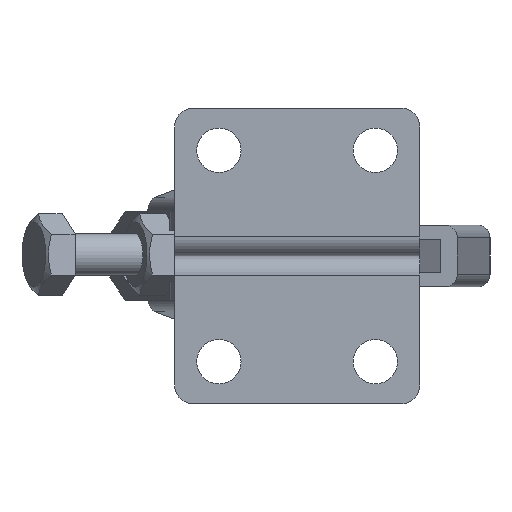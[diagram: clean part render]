
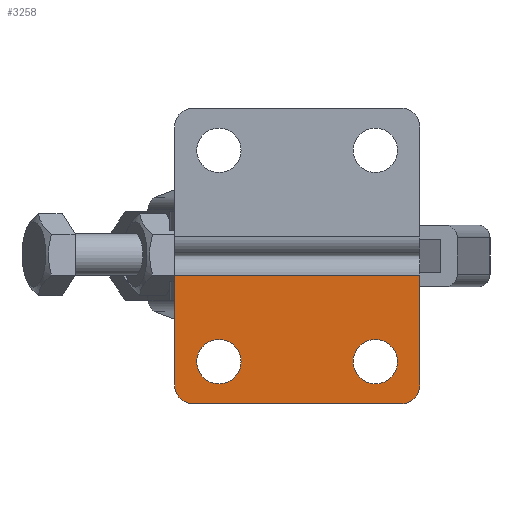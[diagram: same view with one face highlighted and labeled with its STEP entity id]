
A CAD part, front view. The second image highlights one B-rep face of the part: STEP entity #3258.
In plain terms, the highlighted planar face has unit normal (0, -1, 0).
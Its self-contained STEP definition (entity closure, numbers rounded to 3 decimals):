
#210=FACE_BOUND('',#562,.T.);
#211=FACE_BOUND('',#563,.T.);
#263=PLANE('',#3688);
#371=FACE_OUTER_BOUND('',#561,.T.);
#561=EDGE_LOOP('',(#2287,#2288,#2289,#2290,#2291,#2292));
#562=EDGE_LOOP('',(#2293));
#563=EDGE_LOOP('',(#2294));
#803=LINE('',#5179,#1071);
#811=LINE('',#5199,#1079);
#812=LINE('',#5203,#1080);
#813=LINE('',#5204,#1081);
#1071=VECTOR('',#4100,10.);
#1079=VECTOR('',#4114,10.);
#1080=VECTOR('',#4117,10.);
#1081=VECTOR('',#4118,10.);
#1337=CIRCLE('',#3683,4.5);
#1341=CIRCLE('',#3689,4.5);
#1342=CIRCLE('',#3690,5.25);
#1343=CIRCLE('',#3691,5.25);
#1512=VERTEX_POINT('',#5169);
#1513=VERTEX_POINT('',#5170);
#1516=VERTEX_POINT('',#5178);
#1525=VERTEX_POINT('',#5198);
#1526=VERTEX_POINT('',#5200);
#1527=VERTEX_POINT('',#5202);
#1528=VERTEX_POINT('',#5205);
#1529=VERTEX_POINT('',#5207);
#1817=EDGE_CURVE('',#1512,#1513,#1337,.T.);
#1821=EDGE_CURVE('',#1516,#1513,#803,.T.);
#1831=EDGE_CURVE('',#1512,#1525,#811,.T.);
#1832=EDGE_CURVE('',#1526,#1525,#1341,.T.);
#1833=EDGE_CURVE('',#1526,#1527,#812,.T.);
#1834=EDGE_CURVE('',#1527,#1516,#813,.T.);
#1835=EDGE_CURVE('',#1528,#1528,#1342,.T.);
#1836=EDGE_CURVE('',#1529,#1529,#1343,.T.);
#2287=ORIENTED_EDGE('',*,*,#1817,.F.);
#2288=ORIENTED_EDGE('',*,*,#1831,.T.);
#2289=ORIENTED_EDGE('',*,*,#1832,.F.);
#2290=ORIENTED_EDGE('',*,*,#1833,.T.);
#2291=ORIENTED_EDGE('',*,*,#1834,.T.);
#2292=ORIENTED_EDGE('',*,*,#1821,.T.);
#2293=ORIENTED_EDGE('',*,*,#1835,.T.);
#2294=ORIENTED_EDGE('',*,*,#1836,.T.);
#3258=ADVANCED_FACE('',(#371,#210,#211),#263,.T.);
#3683=AXIS2_PLACEMENT_3D('',#5171,#4092,#4093);
#3688=AXIS2_PLACEMENT_3D('',#5197,#4112,#4113);
#3689=AXIS2_PLACEMENT_3D('',#5201,#4115,#4116);
#3690=AXIS2_PLACEMENT_3D('',#5206,#4119,#4120);
#3691=AXIS2_PLACEMENT_3D('',#5208,#4121,#4122);
#4092=DIRECTION('center_axis',(0.,1.,0.));
#4093=DIRECTION('ref_axis',(-0.707,0.,-0.707));
#4100=DIRECTION('',(0.,0.,-1.));
#4112=DIRECTION('center_axis',(0.,-1.,0.));
#4113=DIRECTION('ref_axis',(1.,0.,0.));
#4114=DIRECTION('',(1.,0.,0.));
#4115=DIRECTION('center_axis',(0.,1.,0.));
#4116=DIRECTION('ref_axis',(0.707,0.,-0.707));
#4117=DIRECTION('',(0.,0.,1.));
#4118=DIRECTION('',(-1.,0.,0.));
#4119=DIRECTION('center_axis',(0.,1.,0.));
#4120=DIRECTION('ref_axis',(-1.,0.,0.));
#4121=DIRECTION('center_axis',(0.,1.,0.));
#4122=DIRECTION('ref_axis',(-1.,0.,0.));
#5169=CARTESIAN_POINT('',(4.5,28.,-35.));
#5170=CARTESIAN_POINT('',(0.,28.,-30.5));
#5171=CARTESIAN_POINT('Origin',(4.5,28.,-30.5));
#5178=CARTESIAN_POINT('',(0.,28.,-4.5));
#5179=CARTESIAN_POINT('',(0.,28.,-2.25));
#5197=CARTESIAN_POINT('Origin',(0.,28.,-4.5));
#5198=CARTESIAN_POINT('',(53.5,28.,-35.));
#5199=CARTESIAN_POINT('',(0.,28.,-35.));
#5200=CARTESIAN_POINT('',(58.,28.,-30.5));
#5201=CARTESIAN_POINT('Origin',(53.5,28.,-30.5));
#5202=CARTESIAN_POINT('',(58.,28.,-4.5));
#5203=CARTESIAN_POINT('',(58.,28.,-2.25));
#5204=CARTESIAN_POINT('',(14.132,28.,-4.5));
#5205=CARTESIAN_POINT('',(52.75,28.,-25.));
#5206=CARTESIAN_POINT('Origin',(47.5,28.,-25.));
#5207=CARTESIAN_POINT('',(15.75,28.,-25.));
#5208=CARTESIAN_POINT('Origin',(10.5,28.,-25.));
